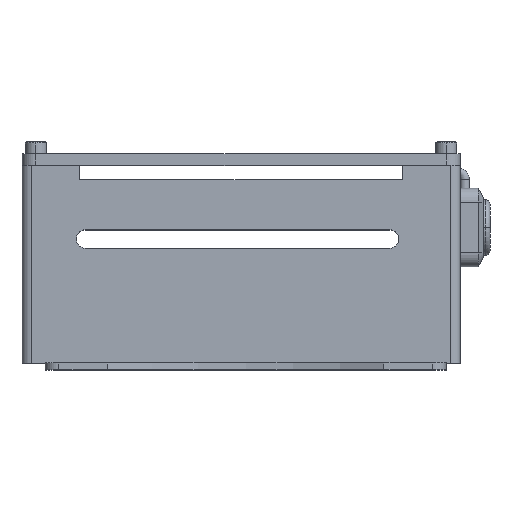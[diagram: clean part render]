
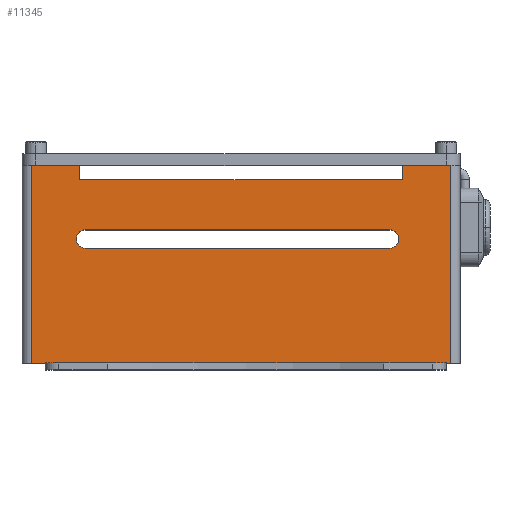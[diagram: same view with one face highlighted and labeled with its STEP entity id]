
A CAD part, top view. The second image highlights one B-rep face of the part: STEP entity #11345.
In plain terms, the highlighted planar face has unit normal (0, 0, 1).
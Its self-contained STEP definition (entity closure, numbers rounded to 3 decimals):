
#160 = DIRECTION ( 'NONE',  ( 1., 0., 0. ) ) ;
#443 = ORIENTED_EDGE ( 'NONE', *, *, #11411, .F. ) ;
#465 = EDGE_CURVE ( 'NONE', #10180, #8398, #1436, .T. ) ;
#488 = DIRECTION ( 'NONE',  ( -1., 0., 0. ) ) ;
#689 = ORIENTED_EDGE ( 'NONE', *, *, #1009, .F. ) ;
#745 = FACE_OUTER_BOUND ( 'NONE', #12755, .T. ) ;
#840 = VERTEX_POINT ( 'NONE', #2833 ) ;
#983 = VERTEX_POINT ( 'NONE', #7367 ) ;
#1001 = DIRECTION ( 'NONE',  ( 0., 1., 0. ) ) ;
#1009 = EDGE_CURVE ( 'NONE', #7024, #983, #12949, .T. ) ;
#1168 = VECTOR ( 'NONE', #160, 1000. ) ;
#1274 = LINE ( 'NONE', #6812, #12267 ) ;
#1408 = ORIENTED_EDGE ( 'NONE', *, *, #3866, .F. ) ;
#1436 = LINE ( 'NONE', #8126, #13063 ) ;
#1521 = DIRECTION ( 'NONE',  ( 0., 0., 1. ) ) ;
#1576 = DIRECTION ( 'NONE',  ( 1., 0., 0. ) ) ;
#2051 = CARTESIAN_POINT ( 'NONE',  ( -45.5, 43., 31.5 ) ) ;
#2074 = VERTEX_POINT ( 'NONE', #10834 ) ;
#2195 = EDGE_CURVE ( 'NONE', #8398, #11656, #5160, .T. ) ;
#2389 = VERTEX_POINT ( 'NONE', #11738 ) ;
#2659 = LINE ( 'NONE', #5015, #8834 ) ;
#2833 = CARTESIAN_POINT ( 'NONE',  ( -33.744, 29., 31.5 ) ) ;
#3073 = ORIENTED_EDGE ( 'NONE', *, *, #13162, .F. ) ;
#3227 = DIRECTION ( 'NONE',  ( 1., 0., 0. ) ) ;
#3239 = DIRECTION ( 'NONE',  ( -1., 0., 0. ) ) ;
#3258 = VECTOR ( 'NONE', #6069, 1000. ) ;
#3708 = EDGE_CURVE ( 'NONE', #8925, #7674, #5392, .T. ) ;
#3866 = EDGE_CURVE ( 'NONE', #2074, #5200, #8327, .T. ) ;
#3896 = VECTOR ( 'NONE', #5491, 1000. ) ;
#4064 = CARTESIAN_POINT ( 'NONE',  ( 45.5, 43., 31.5 ) ) ;
#4525 = CARTESIAN_POINT ( 'NONE',  ( -35., 39.8, 31.5 ) ) ;
#4636 = VECTOR ( 'NONE', #1001, 1000. ) ;
#4687 = DIRECTION ( 'NONE',  ( 0., 0., 1. ) ) ;
#4698 = EDGE_CURVE ( 'NONE', #840, #2389, #7889, .T. ) ;
#5015 = CARTESIAN_POINT ( 'NONE',  ( -35., 39.8, 31.5 ) ) ;
#5160 = LINE ( 'NONE', #4064, #10124 ) ;
#5200 = VERTEX_POINT ( 'NONE', #11415 ) ;
#5201 = FACE_BOUND ( 'NONE', #13070, .T. ) ;
#5292 = VECTOR ( 'NONE', #11815, 1000. ) ;
#5392 = LINE ( 'NONE', #10848, #4636 ) ;
#5491 = DIRECTION ( 'NONE',  ( 0., -1., 0. ) ) ;
#5494 = AXIS2_PLACEMENT_3D ( 'NONE', #12432, #1521, #5912 ) ;
#5531 = EDGE_CURVE ( 'NONE', #2389, #2074, #1274, .T. ) ;
#5625 = CARTESIAN_POINT ( 'NONE',  ( -47.5, 43., 31.5 ) ) ;
#5912 = DIRECTION ( 'NONE',  ( 1., 0., 0. ) ) ;
#6047 = CARTESIAN_POINT ( 'NONE',  ( -33.744, 27., 31.5 ) ) ;
#6069 = DIRECTION ( 'NONE',  ( 0., -1., 0. ) ) ;
#6181 = DIRECTION ( 'NONE',  ( 0., 0., 1. ) ) ;
#6351 = ORIENTED_EDGE ( 'NONE', *, *, #10902, .F. ) ;
#6703 = LINE ( 'NONE', #5625, #1168 ) ;
#6812 = CARTESIAN_POINT ( 'NONE',  ( -33.744, 25., 31.5 ) ) ;
#6831 = DIRECTION ( 'NONE',  ( 1., 0., 0. ) ) ;
#6843 = CARTESIAN_POINT ( 'NONE',  ( 35., 43., 31.5 ) ) ;
#6967 = AXIS2_PLACEMENT_3D ( 'NONE', #9793, #4687, #3227 ) ;
#6969 = PLANE ( 'NONE',  #14151 ) ;
#7024 = VERTEX_POINT ( 'NONE', #9467 ) ;
#7327 = DIRECTION ( 'NONE',  ( 1., 0., 0. ) ) ;
#7367 = CARTESIAN_POINT ( 'NONE',  ( -35., 43., 31.5 ) ) ;
#7443 = CARTESIAN_POINT ( 'NONE',  ( -47.5, 43., 31.5 ) ) ;
#7674 = VERTEX_POINT ( 'NONE', #6843 ) ;
#7725 = VERTEX_POINT ( 'NONE', #4525 ) ;
#7889 = CIRCLE ( 'NONE', #13372, 2. ) ;
#7919 = EDGE_CURVE ( 'NONE', #5200, #13670, #11239, .T. ) ;
#8126 = CARTESIAN_POINT ( 'NONE',  ( -47.5, 0., 31.5 ) ) ;
#8277 = LINE ( 'NONE', #12724, #3258 ) ;
#8327 = CIRCLE ( 'NONE', #6967, 2. ) ;
#8377 = CARTESIAN_POINT ( 'NONE',  ( -47.5, 43., 31.5 ) ) ;
#8398 = VERTEX_POINT ( 'NONE', #11949 ) ;
#8447 = EDGE_CURVE ( 'NONE', #7024, #10180, #10815, .T. ) ;
#8625 = CARTESIAN_POINT ( 'NONE',  ( 32.256, 29., 31.5 ) ) ;
#8627 = ORIENTED_EDGE ( 'NONE', *, *, #5531, .F. ) ;
#8834 = VECTOR ( 'NONE', #1576, 1000. ) ;
#8925 = VERTEX_POINT ( 'NONE', #12434 ) ;
#9028 = EDGE_CURVE ( 'NONE', #7674, #11656, #6703, .T. ) ;
#9467 = CARTESIAN_POINT ( 'NONE',  ( -45.5, 43., 31.5 ) ) ;
#9503 = ORIENTED_EDGE ( 'NONE', *, *, #2195, .T. ) ;
#9793 = CARTESIAN_POINT ( 'NONE',  ( 32.256, 27., 31.5 ) ) ;
#9803 = LINE ( 'NONE', #9866, #10065 ) ;
#9863 = CARTESIAN_POINT ( 'NONE',  ( -45.5, 0., 31.5 ) ) ;
#9866 = CARTESIAN_POINT ( 'NONE',  ( -33.744, 29., 31.5 ) ) ;
#9970 = DIRECTION ( 'NONE',  ( 1., 0., 0. ) ) ;
#10065 = VECTOR ( 'NONE', #3239, 1000. ) ;
#10124 = VECTOR ( 'NONE', #11770, 1000. ) ;
#10180 = VERTEX_POINT ( 'NONE', #9863 ) ;
#10333 = DIRECTION ( 'NONE',  ( 0., 0., -1. ) ) ;
#10815 = LINE ( 'NONE', #2051, #3896 ) ;
#10834 = CARTESIAN_POINT ( 'NONE',  ( 32.256, 25., 31.5 ) ) ;
#10848 = CARTESIAN_POINT ( 'NONE',  ( 35., 43., 31.5 ) ) ;
#10902 = EDGE_CURVE ( 'NONE', #7725, #8925, #2659, .T. ) ;
#11239 = CIRCLE ( 'NONE', #5494, 2. ) ;
#11263 = ORIENTED_EDGE ( 'NONE', *, *, #4698, .F. ) ;
#11345 = ADVANCED_FACE ( 'NONE', ( #5201, #745 ), #6969, .F. ) ;
#11411 = EDGE_CURVE ( 'NONE', #13670, #840, #9803, .T. ) ;
#11415 = CARTESIAN_POINT ( 'NONE',  ( 34.256, 27., 31.5 ) ) ;
#11656 = VERTEX_POINT ( 'NONE', #12225 ) ;
#11686 = ORIENTED_EDGE ( 'NONE', *, *, #7919, .F. ) ;
#11738 = CARTESIAN_POINT ( 'NONE',  ( -33.744, 25., 31.5 ) ) ;
#11739 = ORIENTED_EDGE ( 'NONE', *, *, #8447, .T. ) ;
#11770 = DIRECTION ( 'NONE',  ( 0., 1., 0. ) ) ;
#11815 = DIRECTION ( 'NONE',  ( 1., 0., 0. ) ) ;
#11949 = CARTESIAN_POINT ( 'NONE',  ( 45.5, 0., 31.5 ) ) ;
#12141 = ORIENTED_EDGE ( 'NONE', *, *, #465, .T. ) ;
#12225 = CARTESIAN_POINT ( 'NONE',  ( 45.5, 43., 31.5 ) ) ;
#12267 = VECTOR ( 'NONE', #9970, 1000. ) ;
#12432 = CARTESIAN_POINT ( 'NONE',  ( 32.256, 27., 31.5 ) ) ;
#12434 = CARTESIAN_POINT ( 'NONE',  ( 35., 39.8, 31.5 ) ) ;
#12724 = CARTESIAN_POINT ( 'NONE',  ( -35., 43., 31.5 ) ) ;
#12755 = EDGE_LOOP ( 'NONE', ( #6351, #3073, #689, #11739, #12141, #9503, #14106, #13343 ) ) ;
#12949 = LINE ( 'NONE', #7443, #5292 ) ;
#13063 = VECTOR ( 'NONE', #6831, 1000. ) ;
#13070 = EDGE_LOOP ( 'NONE', ( #8627, #11263, #443, #11686, #1408 ) ) ;
#13162 = EDGE_CURVE ( 'NONE', #983, #7725, #8277, .T. ) ;
#13343 = ORIENTED_EDGE ( 'NONE', *, *, #3708, .F. ) ;
#13372 = AXIS2_PLACEMENT_3D ( 'NONE', #6047, #6181, #7327 ) ;
#13670 = VERTEX_POINT ( 'NONE', #8625 ) ;
#14106 = ORIENTED_EDGE ( 'NONE', *, *, #9028, .F. ) ;
#14151 = AXIS2_PLACEMENT_3D ( 'NONE', #8377, #10333, #488 ) ;
